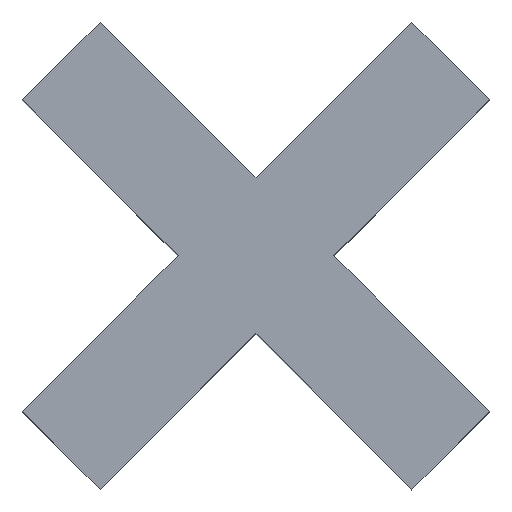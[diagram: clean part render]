
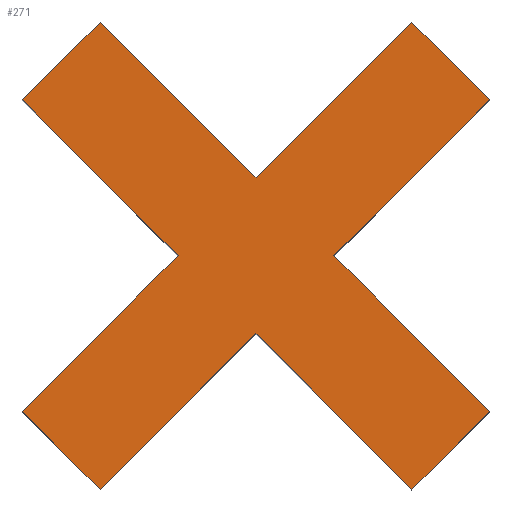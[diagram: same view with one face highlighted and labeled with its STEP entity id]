
A CAD part, top view. The second image highlights one B-rep face of the part: STEP entity #271.
In plain terms, the highlighted planar face has unit normal (0, 0, 1).
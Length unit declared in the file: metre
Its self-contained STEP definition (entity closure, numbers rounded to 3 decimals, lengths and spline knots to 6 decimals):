
#72=ORIENTED_EDGE('',*,*,#119,.T.);
#73=ORIENTED_EDGE('',*,*,#116,.T.);
#74=ORIENTED_EDGE('',*,*,#113,.T.);
#75=ORIENTED_EDGE('',*,*,#110,.T.);
#76=ORIENTED_EDGE('',*,*,#107,.T.);
#77=ORIENTED_EDGE('',*,*,#104,.T.);
#78=ORIENTED_EDGE('',*,*,#101,.T.);
#79=ORIENTED_EDGE('',*,*,#98,.T.);
#80=ORIENTED_EDGE('',*,*,#95,.T.);
#81=ORIENTED_EDGE('',*,*,#92,.T.);
#82=ORIENTED_EDGE('',*,*,#89,.T.);
#83=ORIENTED_EDGE('',*,*,#86,.T.);
#86=EDGE_CURVE('',#123,#122,#146,.T.);
#89=EDGE_CURVE('',#125,#123,#149,.T.);
#92=EDGE_CURVE('',#127,#125,#152,.T.);
#95=EDGE_CURVE('',#129,#127,#155,.T.);
#98=EDGE_CURVE('',#131,#129,#158,.T.);
#101=EDGE_CURVE('',#133,#131,#161,.T.);
#104=EDGE_CURVE('',#135,#133,#164,.T.);
#107=EDGE_CURVE('',#137,#135,#167,.T.);
#110=EDGE_CURVE('',#139,#137,#170,.T.);
#113=EDGE_CURVE('',#141,#139,#173,.T.);
#116=EDGE_CURVE('',#143,#141,#176,.T.);
#119=EDGE_CURVE('',#122,#143,#179,.T.);
#122=VERTEX_POINT('',#363);
#123=VERTEX_POINT('',#365);
#125=VERTEX_POINT('',#371);
#127=VERTEX_POINT('',#377);
#129=VERTEX_POINT('',#383);
#131=VERTEX_POINT('',#389);
#133=VERTEX_POINT('',#395);
#135=VERTEX_POINT('',#401);
#137=VERTEX_POINT('',#407);
#139=VERTEX_POINT('',#413);
#141=VERTEX_POINT('',#419);
#143=VERTEX_POINT('',#425);
#146=LINE('',#364,#182);
#149=LINE('',#370,#185);
#152=LINE('',#376,#188);
#155=LINE('',#382,#191);
#158=LINE('',#388,#194);
#161=LINE('',#394,#197);
#164=LINE('',#400,#200);
#167=LINE('',#406,#203);
#170=LINE('',#412,#206);
#173=LINE('',#418,#209);
#176=LINE('',#424,#212);
#179=LINE('',#429,#215);
#182=VECTOR('',#297,1.);
#185=VECTOR('',#302,1.);
#188=VECTOR('',#307,1.);
#191=VECTOR('',#312,1.);
#194=VECTOR('',#317,1.);
#197=VECTOR('',#322,1.);
#200=VECTOR('',#327,1.);
#203=VECTOR('',#332,1.);
#206=VECTOR('',#337,1.);
#209=VECTOR('',#342,1.);
#212=VECTOR('',#347,1.);
#215=VECTOR('',#352,1.);
#229=EDGE_LOOP('',(#72,#73,#74,#75,#76,#77,#78,#79,#80,#81,#82,#83));
#243=FACE_BOUND('',#229,.T.);
#257=PLANE('',#290);
#271=ADVANCED_FACE('',(#243),#257,.T.);
#290=AXIS2_PLACEMENT_3D('',#431,#355,#356);
#297=DIRECTION('',(0.707,-0.707,0.));
#302=DIRECTION('',(0.707,0.707,0.));
#307=DIRECTION('',(0.707,-0.707,0.));
#312=DIRECTION('',(-0.707,-0.707,0.));
#317=DIRECTION('',(0.707,-0.707,0.));
#322=DIRECTION('',(-0.707,-0.707,0.));
#327=DIRECTION('',(-0.707,0.707,0.));
#332=DIRECTION('',(-0.707,-0.707,0.));
#337=DIRECTION('',(-0.707,0.707,0.));
#342=DIRECTION('',(0.707,0.707,0.));
#347=DIRECTION('',(-0.707,0.707,0.));
#352=DIRECTION('',(0.707,0.707,0.));
#355=DIRECTION('',(0.,0.,1.));
#356=DIRECTION('',(-1.,0.,0.));
#363=CARTESIAN_POINT('',(-0.012218,-0.00234,-0.0295));
#364=CARTESIAN_POINT('',(-0.012518,-0.00204,-0.0295));
#365=CARTESIAN_POINT('',(-0.012518,-0.00204,-0.0295));
#370=CARTESIAN_POINT('',(-0.012818,-0.00234,-0.0295));
#371=CARTESIAN_POINT('',(-0.012818,-0.00234,-0.0295));
#376=CARTESIAN_POINT('',(-0.012968,-0.00219,-0.0295));
#377=CARTESIAN_POINT('',(-0.012968,-0.00219,-0.0295));
#382=CARTESIAN_POINT('',(-0.012668,-0.00189,-0.0295));
#383=CARTESIAN_POINT('',(-0.012668,-0.00189,-0.0295));
#388=CARTESIAN_POINT('',(-0.012968,-0.00159,-0.0295));
#389=CARTESIAN_POINT('',(-0.012968,-0.00159,-0.0295));
#394=CARTESIAN_POINT('',(-0.012818,-0.00144,-0.0295));
#395=CARTESIAN_POINT('',(-0.012818,-0.00144,-0.0295));
#400=CARTESIAN_POINT('',(-0.012518,-0.00174,-0.0295));
#401=CARTESIAN_POINT('',(-0.012518,-0.00174,-0.0295));
#406=CARTESIAN_POINT('',(-0.012218,-0.00144,-0.0295));
#407=CARTESIAN_POINT('',(-0.012218,-0.00144,-0.0295));
#412=CARTESIAN_POINT('',(-0.012068,-0.00159,-0.0295));
#413=CARTESIAN_POINT('',(-0.012068,-0.00159,-0.0295));
#418=CARTESIAN_POINT('',(-0.012368,-0.00189,-0.0295));
#419=CARTESIAN_POINT('',(-0.012368,-0.00189,-0.0295));
#424=CARTESIAN_POINT('',(-0.012068,-0.00219,-0.0295));
#425=CARTESIAN_POINT('',(-0.012068,-0.00219,-0.0295));
#429=CARTESIAN_POINT('',(-0.012218,-0.00234,-0.0295));
#431=CARTESIAN_POINT('',(-0.012518,-0.00189,-0.0295));
